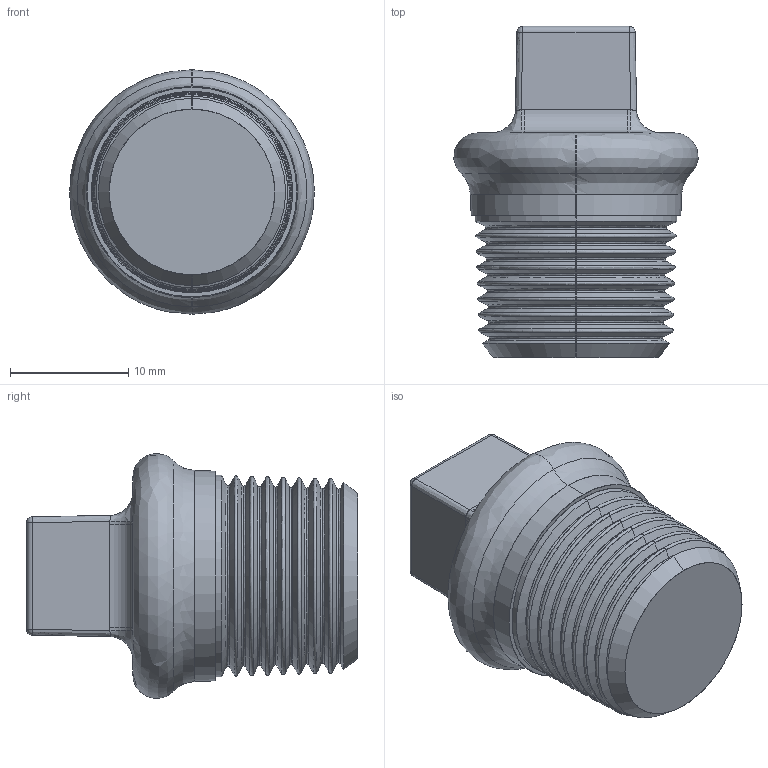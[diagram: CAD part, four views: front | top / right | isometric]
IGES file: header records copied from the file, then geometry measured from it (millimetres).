
Start section: SolidWorks IGES file using analytic representation for surfaces
Global section: file name: C:\Users\Joel Rosa\Desktop\Tubulação\12-03-OK\12-03-003.IGS; native system: SolidWorks 2011; preprocessor: SolidWorks 2011; author: Joel Rosa; date: 121203.234430; units: millimetre
Bounding box: 20.69 x 28 x 20.7 mm (x, y, z)
Surface area: 2200.5 mm2 (no closed solid volume)
Topology: 0 solids, 0 shells, 168 faces, 1358 edges, 1358 vertices
Faces by surface type: bspline 114, revolution 54
